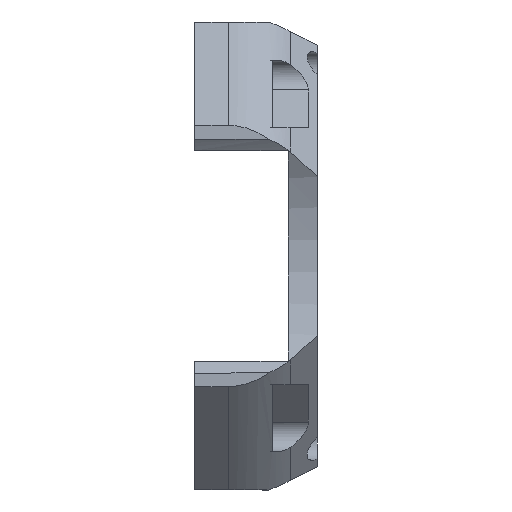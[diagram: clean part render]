
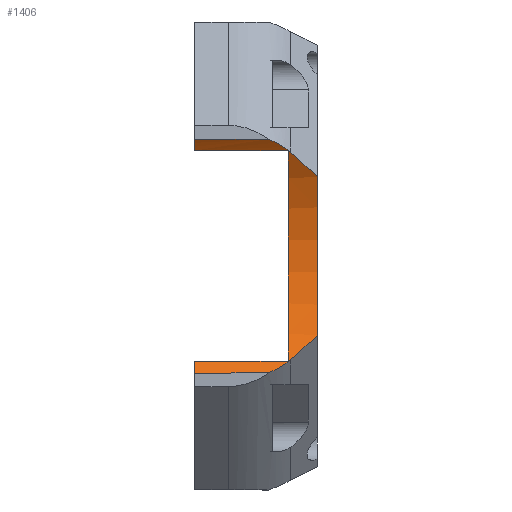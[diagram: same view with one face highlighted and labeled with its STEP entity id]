
A CAD part, left-side view. The second image highlights one B-rep face of the part: STEP entity #1406.
In plain terms, the highlighted cylindrical face has radius 32.071 mm (diameter 64.143 mm), a partial arc.
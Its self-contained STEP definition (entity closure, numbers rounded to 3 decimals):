
#26 = ORIENTED_EDGE ( 'NONE', *, *, #680, .T. ) ;
#76 = CARTESIAN_POINT ( 'NONE',  ( -38.673, -15.838, -18.222 ) ) ;
#77 = CYLINDRICAL_SURFACE ( 'NONE', #1092, 32.071 ) ;
#157 = EDGE_CURVE ( 'NONE', #268, #3127, #1480, .T. ) ;
#184 = VERTEX_POINT ( 'NONE', #3092 ) ;
#187 = ORIENTED_EDGE ( 'NONE', *, *, #818, .T. ) ;
#256 = LINE ( 'NONE', #3223, #1378 ) ;
#268 = VERTEX_POINT ( 'NONE', #1304 ) ;
#308 = DIRECTION ( 'NONE',  ( 0., 0., 1. ) ) ;
#336 = CARTESIAN_POINT ( 'NONE',  ( -36.016, -21., 13.578 ) ) ;
#365 = VERTEX_POINT ( 'NONE', #3014 ) ;
#393 = CARTESIAN_POINT ( 'NONE',  ( -39.52, -13.984, -19.389 ) ) ;
#397 = CARTESIAN_POINT ( 'NONE',  ( -40., 0., -20. ) ) ;
#445 = CARTESIAN_POINT ( 'NONE',  ( -39.774, -13.316, 19.717 ) ) ;
#504 = VERTEX_POINT ( 'NONE', #1354 ) ;
#561 =( BOUNDED_CURVE ( )  B_SPLINE_CURVE ( 3, ( #336, #3311, #872, #2557 ),
 .UNSPECIFIED., .F., .F. ) 
 B_SPLINE_CURVE_WITH_KNOTS ( ( 4, 4 ),
 ( 4.364, 4.513 ),
 .UNSPECIFIED. ) 
 CURVE ( )  GEOMETRIC_REPRESENTATION_ITEM ( )  RATIONAL_B_SPLINE_CURVE ( ( 1., 0.998, 0.998, 1. ) ) 
 REPRESENTATION_ITEM ( '' )  );
#622 = DIRECTION ( 'NONE',  ( 0., 1., 0. ) ) ;
#623 = AXIS2_PLACEMENT_3D ( 'NONE', #3362, #1998, #1439 ) ;
#647 = VERTEX_POINT ( 'NONE', #654 ) ;
#654 = CARTESIAN_POINT ( 'NONE',  ( -38.528, 0., 18. ) ) ;
#656 = VERTEX_POINT ( 'NONE', #2515 ) ;
#680 = EDGE_CURVE ( 'NONE', #647, #656, #1213, .T. ) ;
#689 = CIRCLE ( 'NONE', #2686, 32.071 ) ;
#806 = CIRCLE ( 'NONE', #2849, 32.071 ) ;
#812 = VECTOR ( 'NONE', #2806, 1000. ) ;
#818 = EDGE_CURVE ( 'NONE', #656, #184, #806, .T. ) ;
#830 = CARTESIAN_POINT ( 'NONE',  ( -65.071, 0., 0. ) ) ;
#836 = EDGE_LOOP ( 'NONE', ( #2219, #2339, #1613, #1792, #26, #187, #2971, #1074, #2556, #2941, #3476, #2324 ) ) ;
#872 = CARTESIAN_POINT ( 'NONE',  ( -37.475, -17.96, 16.419 ) ) ;
#880 = VERTEX_POINT ( 'NONE', #1103 ) ;
#889 = CARTESIAN_POINT ( 'NONE',  ( -36.693, -19.498, -15.026 ) ) ;
#924 = DIRECTION ( 'NONE',  ( 0., 1., 0. ) ) ;
#928 =( BOUNDED_CURVE ( )  B_SPLINE_CURVE ( 3, ( #2266, #3327, #889, #2023 ),
 .UNSPECIFIED., .F., .F. ) 
 B_SPLINE_CURVE_WITH_KNOTS ( ( 4, 4 ),
 ( 1.77, 1.919 ),
 .UNSPECIFIED. ) 
 CURVE ( )  GEOMETRIC_REPRESENTATION_ITEM ( )  RATIONAL_B_SPLINE_CURVE ( ( 1., 0.998, 0.998, 1. ) ) 
 REPRESENTATION_ITEM ( '' )  );
#941 = LINE ( 'NONE', #397, #3024 ) ;
#1037 = CIRCLE ( 'NONE', #2852, 32.071 ) ;
#1074 = ORIENTED_EDGE ( 'NONE', *, *, #157, .T. ) ;
#1092 = AXIS2_PLACEMENT_3D ( 'NONE', #830, #2731, #308 ) ;
#1103 = CARTESIAN_POINT ( 'NONE',  ( -38.359, -16.393, 17.75 ) ) ;
#1127 = CARTESIAN_POINT ( 'NONE',  ( -65.071, 0., 0. ) ) ;
#1213 = LINE ( 'NONE', #2621, #3361 ) ;
#1296 = CARTESIAN_POINT ( 'NONE',  ( -40., -12.611, -20. ) ) ;
#1304 = CARTESIAN_POINT ( 'NONE',  ( -38.528, 0., -18. ) ) ;
#1313 = CARTESIAN_POINT ( 'NONE',  ( -36.016, -21., -13.578 ) ) ;
#1354 = CARTESIAN_POINT ( 'NONE',  ( -36.016, -21., 13.578 ) ) ;
#1378 = VECTOR ( 'NONE', #2957, 1000. ) ;
#1406 = ADVANCED_FACE ( 'NONE', ( #1920 ), #77, .F. ) ;
#1439 = DIRECTION ( 'NONE',  ( 0., 0., 1. ) ) ;
#1480 = CIRCLE ( 'NONE', #623, 32.071 ) ;
#1499 = CARTESIAN_POINT ( 'NONE',  ( -39.52, -13.984, 19.389 ) ) ;
#1510 = CARTESIAN_POINT ( 'NONE',  ( -65.071, -21., 0. ) ) ;
#1560 = EDGE_CURVE ( 'NONE', #365, #647, #1037, .T. ) ;
#1613 = ORIENTED_EDGE ( 'NONE', *, *, #2130, .T. ) ;
#1753 = CARTESIAN_POINT ( 'NONE',  ( -38.673, -15.838, 18.222 ) ) ;
#1784 = EDGE_CURVE ( 'NONE', #184, #268, #256, .T. ) ;
#1792 = ORIENTED_EDGE ( 'NONE', *, *, #1560, .T. ) ;
#1800 = CARTESIAN_POINT ( 'NONE',  ( -40., 0., -20. ) ) ;
#1916 = EDGE_CURVE ( 'NONE', #504, #880, #561, .T. ) ;
#1920 = FACE_OUTER_BOUND ( 'NONE', #836, .T. ) ;
#1940 = EDGE_CURVE ( 'NONE', #3411, #2504, #928, .T. ) ;
#1953 = EDGE_CURVE ( 'NONE', #880, #3399, #2249, .T. ) ;
#1954 = CARTESIAN_POINT ( 'NONE',  ( -38.97, -15.244, -18.641 ) ) ;
#1998 = DIRECTION ( 'NONE',  ( 0., 1., 0. ) ) ;
#2023 = CARTESIAN_POINT ( 'NONE',  ( -36.016, -21., -13.578 ) ) ;
#2033 = CARTESIAN_POINT ( 'NONE',  ( -40., 0., 20. ) ) ;
#2070 = DIRECTION ( 'NONE',  ( 0., -1., 0. ) ) ;
#2124 = DIRECTION ( 'NONE',  ( 0., 1., 0. ) ) ;
#2130 = EDGE_CURVE ( 'NONE', #3399, #365, #2328, .T. ) ;
#2154 = B_SPLINE_CURVE_WITH_KNOTS ( 'NONE', 3,
 ( #2833, #2798, #393, #1954, #76, #3292 ),
 .UNSPECIFIED., .F., .F.,
 ( 4, 2, 4 ),
 ( 0., 0.002, 0.005 ),
 .UNSPECIFIED. ) ;
#2219 = ORIENTED_EDGE ( 'NONE', *, *, #1916, .T. ) ;
#2249 = B_SPLINE_CURVE_WITH_KNOTS ( 'NONE', 3,
 ( #3094, #1753, #2830, #1499, #445, #2594 ),
 .UNSPECIFIED., .F., .F.,
 ( 4, 2, 4 ),
 ( 0., 0.002, 0.005 ),
 .UNSPECIFIED. ) ;
#2266 = CARTESIAN_POINT ( 'NONE',  ( -38.359, -16.393, -17.75 ) ) ;
#2291 = DIRECTION ( 'NONE',  ( 0., 0., 1. ) ) ;
#2308 = CARTESIAN_POINT ( 'NONE',  ( -38.359, -16.393, -17.75 ) ) ;
#2324 = ORIENTED_EDGE ( 'NONE', *, *, #2977, .F. ) ;
#2328 = LINE ( 'NONE', #2033, #812 ) ;
#2339 = ORIENTED_EDGE ( 'NONE', *, *, #1953, .T. ) ;
#2400 = CARTESIAN_POINT ( 'NONE',  ( -65.071, -16., 0. ) ) ;
#2504 = VERTEX_POINT ( 'NONE', #1313 ) ;
#2508 = DIRECTION ( 'NONE',  ( 0., 0., 1. ) ) ;
#2515 = CARTESIAN_POINT ( 'NONE',  ( -38.528, -16., 18. ) ) ;
#2556 = ORIENTED_EDGE ( 'NONE', *, *, #3392, .F. ) ;
#2557 = CARTESIAN_POINT ( 'NONE',  ( -38.359, -16.393, 17.75 ) ) ;
#2564 = DIRECTION ( 'NONE',  ( 0., 1., 0. ) ) ;
#2578 = VERTEX_POINT ( 'NONE', #1296 ) ;
#2594 = CARTESIAN_POINT ( 'NONE',  ( -40., -12.611, 20. ) ) ;
#2621 = CARTESIAN_POINT ( 'NONE',  ( -38.528, 0., 18. ) ) ;
#2686 = AXIS2_PLACEMENT_3D ( 'NONE', #1510, #924, #2291 ) ;
#2731 = DIRECTION ( 'NONE',  ( 0., 1., 0. ) ) ;
#2757 = EDGE_CURVE ( 'NONE', #2578, #3411, #2154, .T. ) ;
#2798 = CARTESIAN_POINT ( 'NONE',  ( -39.774, -13.316, -19.717 ) ) ;
#2806 = DIRECTION ( 'NONE',  ( 0., 1., 0. ) ) ;
#2830 = CARTESIAN_POINT ( 'NONE',  ( -38.97, -15.244, 18.641 ) ) ;
#2833 = CARTESIAN_POINT ( 'NONE',  ( -40., -12.611, -20. ) ) ;
#2849 = AXIS2_PLACEMENT_3D ( 'NONE', #2400, #2124, #3201 ) ;
#2852 = AXIS2_PLACEMENT_3D ( 'NONE', #1127, #622, #2508 ) ;
#2941 = ORIENTED_EDGE ( 'NONE', *, *, #2757, .T. ) ;
#2957 = DIRECTION ( 'NONE',  ( 0., 1., 0. ) ) ;
#2971 = ORIENTED_EDGE ( 'NONE', *, *, #1784, .T. ) ;
#2977 = EDGE_CURVE ( 'NONE', #504, #2504, #689, .T. ) ;
#3014 = CARTESIAN_POINT ( 'NONE',  ( -40., 0., 20. ) ) ;
#3024 = VECTOR ( 'NONE', #2564, 1000. ) ;
#3092 = CARTESIAN_POINT ( 'NONE',  ( -38.528, -16., -18. ) ) ;
#3094 = CARTESIAN_POINT ( 'NONE',  ( -38.359, -16.393, 17.75 ) ) ;
#3101 = CARTESIAN_POINT ( 'NONE',  ( -40., -12.611, 20. ) ) ;
#3127 = VERTEX_POINT ( 'NONE', #1800 ) ;
#3201 = DIRECTION ( 'NONE',  ( 0., 0., -1. ) ) ;
#3223 = CARTESIAN_POINT ( 'NONE',  ( -38.528, 0., -18. ) ) ;
#3292 = CARTESIAN_POINT ( 'NONE',  ( -38.359, -16.393, -17.75 ) ) ;
#3311 = CARTESIAN_POINT ( 'NONE',  ( -36.693, -19.498, 15.026 ) ) ;
#3327 = CARTESIAN_POINT ( 'NONE',  ( -37.475, -17.96, -16.419 ) ) ;
#3361 = VECTOR ( 'NONE', #2070, 1000. ) ;
#3362 = CARTESIAN_POINT ( 'NONE',  ( -65.071, 0., 0. ) ) ;
#3392 = EDGE_CURVE ( 'NONE', #2578, #3127, #941, .T. ) ;
#3399 = VERTEX_POINT ( 'NONE', #3101 ) ;
#3411 = VERTEX_POINT ( 'NONE', #2308 ) ;
#3476 = ORIENTED_EDGE ( 'NONE', *, *, #1940, .T. ) ;
